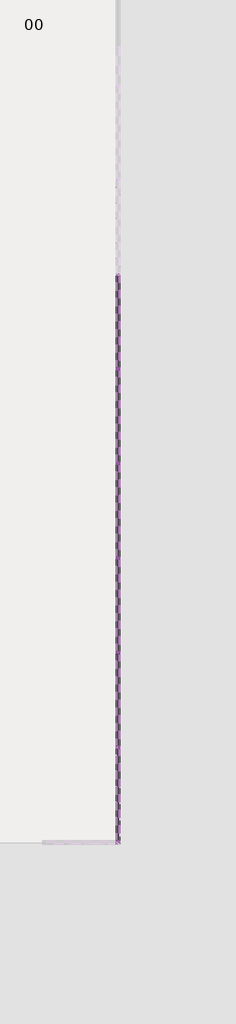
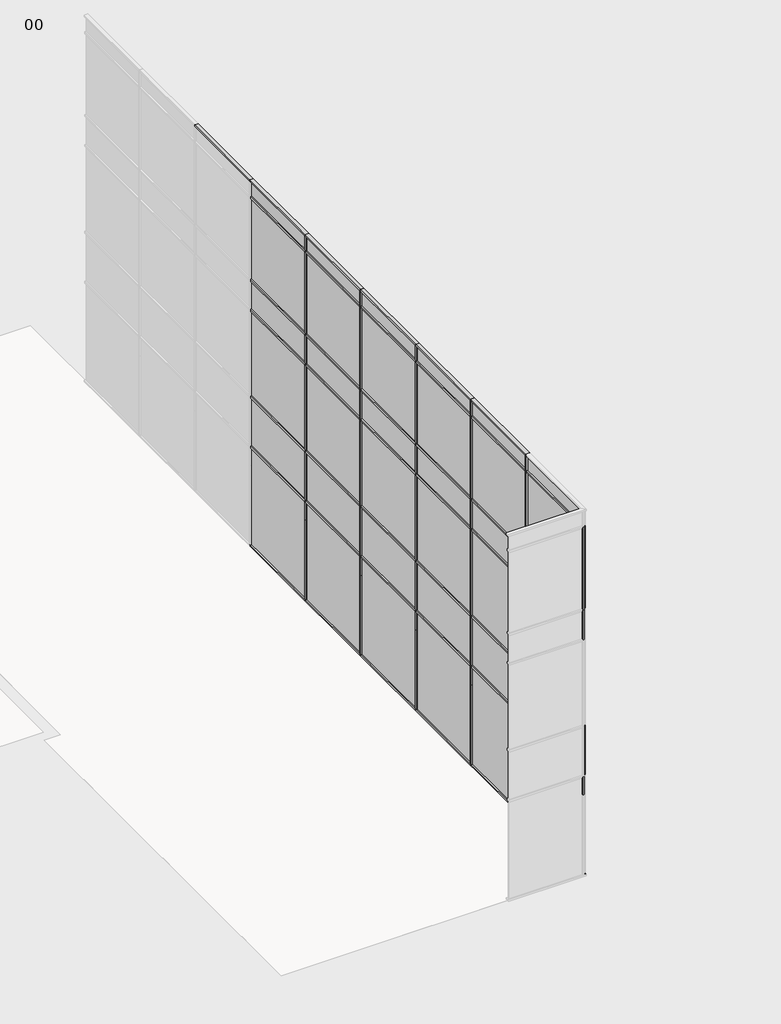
# One storey, part 5 of 11: 82 members, 36 plates.
"""IFC4 building model written with IfcOpenShell, lengths in millimetres."""

from ifc_helpers import new_model, si_unit, origin, place, context, project, spatial, transform, mapped, element, save
from components import rectangular_mullion_curtainwallmullion_rectangular_generic_8ae0e668, rectangular_mullion_curtainwallmullion_rectangular_generic_08fbcc14, rectangular_mullion_curtainwallmullion_rectangular_generic_83e55909, rectangular_mullion_curtainwallmullion_rectangular_generic_5675a122, rectangular_mullion_curtainwallmullion_rectangular_generic_12ad56c0, rectangular_mullion_curtainwallmullion_rectangular_generic_bd817207, rectangular_mullion_curtainwallmullion_rectangular_generic_55e77994, rectangular_mullion_curtainwallmullion_rectangular_generic_654ac675, rectangular_mullion_curtainwallmullion_rectangular_generic_c0600e94, rectangular_mullion_curtainwallmullion_rectangular_generic_3bdb59d8, rectangular_mullion_curtainwallmullion_rectangular_generic_a50df724, rectangular_mullion_curtainwallmullion_rectangular_generic_c640f651, rectangular_mullion_curtainwallmullion_rectangular_generic_afb0b622, rectangular_mullion_curtainwallmullion_rectangular_generic_b2d53351, system_panel_curtainpanel_glazed_34fb785a, system_panel_curtainpanel_glazed_62d472f1, system_panel_curtainpanel_glazed_9c2ad216, system_panel_curtainpanel_solid_fc584997, system_panel_curtainpanel_solid_60141125, system_panel_curtainpanel_solid_5de49f81

model = new_model("IFC4")

# Units and contexts
model_context = context("Model", 3, world=origin())
ifc_project = project(units=[si_unit("LENGTHUNIT", "METRE", prefix="MILLI")], contexts=[model_context])

# Site, building, storey
site = spatial("IfcSite", under=ifc_project)
building = spatial("IfcBuilding", under=site)
storey = spatial("IfcBuildingStorey", under=building, Name="00", Elevation=0.0)

# Members
placement = place(None, origin())
rectangular_mullion_curtainwallmullion_rectangular_generic_shape = rectangular_mullion_curtainwallmullion_rectangular_generic_8ae0e668(model_context)
element("IfcMember", 1, ObjectType="Rectangular Mullion : CurtainWallMullion_Rectangular_Generic", at=placement, inside=storey, context=model_context, shape_type="MappedRepresentation", body=[
    mapped(rectangular_mullion_curtainwallmullion_rectangular_generic_shape, transform((454246.3206883, -394768.0026386, 10486.7), x_axis=(0.0, -1.0, 0.0), y_axis=(-1.0, 0.0, 0.0), z_axis=(0.0, 0.0, -1.0))),
])
element("IfcMember", 2, ObjectType="Rectangular Mullion : CurtainWallMullion_Rectangular_Generic", at=placement, inside=storey, context=model_context, shape_type="MappedRepresentation", body=[
    mapped(rectangular_mullion_curtainwallmullion_rectangular_generic_shape, transform((454246.3206883, -397482.6026385, 10486.7), x_axis=(0.0, -1.0, 0.0), y_axis=(-1.0, 0.0, 0.0), z_axis=(0.0, 0.0, -1.0))),
])
element("IfcMember", 3, ObjectType="Rectangular Mullion : CurtainWallMullion_Rectangular_Generic", at=placement, inside=storey, context=model_context, shape_type="MappedRepresentation", body=[
    mapped(rectangular_mullion_curtainwallmullion_rectangular_generic_shape, transform((454246.3206883, -400197.2026385, 10486.7), x_axis=(0.0, -1.0, 0.0), y_axis=(-1.0, 0.0, 0.0), z_axis=(0.0, 0.0, -1.0))),
])
element("IfcMember", 4, ObjectType="Rectangular Mullion : CurtainWallMullion_Rectangular_Generic", at=placement, inside=storey, context=model_context, shape_type="MappedRepresentation", body=[
    mapped(rectangular_mullion_curtainwallmullion_rectangular_generic_shape, transform((454246.3206883, -402911.8026384, 10486.7), x_axis=(0.0, -1.0, 0.0), y_axis=(-1.0, 0.0, 0.0), z_axis=(0.0, 0.0, -1.0))),
])
element("IfcMember", 5, ObjectType="Rectangular Mullion : CurtainWallMullion_Rectangular_Generic", at=placement, inside=storey, context=model_context, shape_type="MappedRepresentation", body=[
    mapped(rectangular_mullion_curtainwallmullion_rectangular_generic_shape, transform((454246.3206883, -405626.4026384, 10486.7), x_axis=(0.0, -1.0, 0.0), y_axis=(-1.0, 0.0, 0.0), z_axis=(0.0, 0.0, -1.0))),
])
rectangular_mullion_curtainwallmullion_rectangular_generic_2_shape = rectangular_mullion_curtainwallmullion_rectangular_generic_08fbcc14(model_context)
element("IfcMember", 6, ObjectType="Rectangular Mullion : CurtainWallMullion_Rectangular_Generic", at=placement, inside=storey, context=model_context, shape_type="MappedRepresentation", body=[
    mapped(rectangular_mullion_curtainwallmullion_rectangular_generic_2_shape, transform((454246.3206883, -394768.0026386, 8000.0), x_axis=(0.0, -1.0, 0.0), y_axis=(-1.0, 0.0, 0.0), z_axis=(0.0, 0.0, -1.0))),
])
element("IfcMember", 7, ObjectType="Rectangular Mullion : CurtainWallMullion_Rectangular_Generic", at=placement, inside=storey, context=model_context, shape_type="MappedRepresentation", body=[
    mapped(rectangular_mullion_curtainwallmullion_rectangular_generic_2_shape, transform((454246.3206883, -397482.6026385, 8000.0), x_axis=(0.0, -1.0, 0.0), y_axis=(-1.0, 0.0, 0.0), z_axis=(0.0, 0.0, -1.0))),
])
element("IfcMember", 8, ObjectType="Rectangular Mullion : CurtainWallMullion_Rectangular_Generic", at=placement, inside=storey, context=model_context, shape_type="MappedRepresentation", body=[
    mapped(rectangular_mullion_curtainwallmullion_rectangular_generic_2_shape, transform((454246.3206883, -400197.2026385, 8000.0), x_axis=(0.0, -1.0, 0.0), y_axis=(-1.0, 0.0, 0.0), z_axis=(0.0, 0.0, -1.0))),
])
element("IfcMember", 9, ObjectType="Rectangular Mullion : CurtainWallMullion_Rectangular_Generic", at=placement, inside=storey, context=model_context, shape_type="MappedRepresentation", body=[
    mapped(rectangular_mullion_curtainwallmullion_rectangular_generic_2_shape, transform((454246.3206883, -402911.8026384, 8000.0), x_axis=(0.0, -1.0, 0.0), y_axis=(-1.0, 0.0, 0.0), z_axis=(0.0, 0.0, -1.0))),
])
element("IfcMember", 10, ObjectType="Rectangular Mullion : CurtainWallMullion_Rectangular_Generic", at=placement, inside=storey, context=model_context, shape_type="MappedRepresentation", body=[
    mapped(rectangular_mullion_curtainwallmullion_rectangular_generic_2_shape, transform((454246.3206883, -405626.4026384, 8000.0), x_axis=(0.0, -1.0, 0.0), y_axis=(-1.0, 0.0, 0.0), z_axis=(0.0, 0.0, -1.0))),
])
rectangular_mullion_curtainwallmullion_rectangular_generic_3_shape = rectangular_mullion_curtainwallmullion_rectangular_generic_83e55909(model_context)
element("IfcMember", 11, ObjectType="Rectangular Mullion : CurtainWallMullion_Rectangular_Generic", at=placement, inside=storey, context=model_context, shape_type="MappedRepresentation", body=[
    mapped(rectangular_mullion_curtainwallmullion_rectangular_generic_3_shape, transform((454246.3206883, -408366.0026386, 10486.7), x_axis=(1.0, 0.0, 0.0), y_axis=(0.0, 1.0, 0.0), z_axis=(0.0, 0.0, 1.0))),
])
element("IfcMember", 12, ObjectType="Rectangular Mullion : CurtainWallMullion_Rectangular_Generic", at=placement, inside=storey, context=model_context, shape_type="MappedRepresentation", body=[
    mapped(rectangular_mullion_curtainwallmullion_rectangular_generic_3_shape, transform((454246.3206883, -408366.0026386, 8000.0), x_axis=(0.0, -1.0, 0.0), y_axis=(-1.0, 0.0, 0.0), z_axis=(0.0, 0.0, -1.0))),
])
rectangular_mullion_curtainwallmullion_rectangular_generic_4_shape = rectangular_mullion_curtainwallmullion_rectangular_generic_5675a122(model_context)
element("IfcMember", 13, ObjectType="Rectangular Mullion : CurtainWallMullion_Rectangular_Generic", at=placement, inside=storey, context=model_context, shape_type="MappedRepresentation", body=[
    mapped(rectangular_mullion_curtainwallmullion_rectangular_generic_4_shape, transform((454246.3206883, -394768.0026386, 50.0), x_axis=(0.0, -1.0, 0.0), y_axis=(-1.0, 0.0, 0.0), z_axis=(0.0, 0.0, -1.0))),
])
element("IfcMember", 14, ObjectType="Rectangular Mullion : CurtainWallMullion_Rectangular_Generic", at=placement, inside=storey, context=model_context, shape_type="MappedRepresentation", body=[
    mapped(rectangular_mullion_curtainwallmullion_rectangular_generic_4_shape, transform((454246.3206883, -397482.6026385, 50.0), x_axis=(0.0, -1.0, 0.0), y_axis=(-1.0, 0.0, 0.0), z_axis=(0.0, 0.0, -1.0))),
])
element("IfcMember", 15, ObjectType="Rectangular Mullion : CurtainWallMullion_Rectangular_Generic", at=placement, inside=storey, context=model_context, shape_type="MappedRepresentation", body=[
    mapped(rectangular_mullion_curtainwallmullion_rectangular_generic_4_shape, transform((454246.3206883, -400197.2026385, 50.0), x_axis=(0.0, -1.0, 0.0), y_axis=(-1.0, 0.0, 0.0), z_axis=(0.0, 0.0, -1.0))),
])
element("IfcMember", 16, ObjectType="Rectangular Mullion : CurtainWallMullion_Rectangular_Generic", at=placement, inside=storey, context=model_context, shape_type="MappedRepresentation", body=[
    mapped(rectangular_mullion_curtainwallmullion_rectangular_generic_4_shape, transform((454246.3206883, -402911.8026384, 50.0), x_axis=(0.0, -1.0, 0.0), y_axis=(-1.0, 0.0, 0.0), z_axis=(0.0, 0.0, -1.0))),
])
element("IfcMember", 17, ObjectType="Rectangular Mullion : CurtainWallMullion_Rectangular_Generic", at=placement, inside=storey, context=model_context, shape_type="MappedRepresentation", body=[
    mapped(rectangular_mullion_curtainwallmullion_rectangular_generic_4_shape, transform((454246.3206883, -405626.4026384, 50.0), x_axis=(0.0, -1.0, 0.0), y_axis=(-1.0, 0.0, 0.0), z_axis=(0.0, 0.0, -1.0))),
])
rectangular_mullion_curtainwallmullion_rectangular_generic_5_shape = rectangular_mullion_curtainwallmullion_rectangular_generic_12ad56c0(model_context)
element("IfcMember", 18, ObjectType="Rectangular Mullion : CurtainWallMullion_Rectangular_Generic", at=placement, inside=storey, context=model_context, shape_type="MappedRepresentation", body=[
    mapped(rectangular_mullion_curtainwallmullion_rectangular_generic_5_shape, transform((454246.3206883, -392053.4026387, 11000.0), x_axis=(0.0, 0.0, 1.0), y_axis=(-1.0, 0.0, 0.0), z_axis=(0.0, -1.0, 0.0))),
])
element("IfcMember", 19, ObjectType="Rectangular Mullion : CurtainWallMullion_Rectangular_Generic", at=placement, inside=storey, context=model_context, shape_type="MappedRepresentation", body=[
    mapped(rectangular_mullion_curtainwallmullion_rectangular_generic_5_shape, transform((454246.3206883, -394768.0026386, 11000.0), x_axis=(0.0, 0.0, 1.0), y_axis=(-1.0, 0.0, 0.0), z_axis=(0.0, -1.0, 0.0))),
])
element("IfcMember", 20, ObjectType="Rectangular Mullion : CurtainWallMullion_Rectangular_Generic", at=placement, inside=storey, context=model_context, shape_type="MappedRepresentation", body=[
    mapped(rectangular_mullion_curtainwallmullion_rectangular_generic_5_shape, transform((454246.3206883, -397482.6026385, 11000.0), x_axis=(0.0, 0.0, 1.0), y_axis=(-1.0, 0.0, 0.0), z_axis=(0.0, -1.0, 0.0))),
])
element("IfcMember", 21, ObjectType="Rectangular Mullion : CurtainWallMullion_Rectangular_Generic", at=placement, inside=storey, context=model_context, shape_type="MappedRepresentation", body=[
    mapped(rectangular_mullion_curtainwallmullion_rectangular_generic_5_shape, transform((454246.3206883, -400197.2026385, 11000.0), x_axis=(0.0, 0.0, 1.0), y_axis=(-1.0, 0.0, 0.0), z_axis=(0.0, -1.0, 0.0))),
])
element("IfcMember", 22, ObjectType="Rectangular Mullion : CurtainWallMullion_Rectangular_Generic", at=placement, inside=storey, context=model_context, shape_type="MappedRepresentation", body=[
    mapped(rectangular_mullion_curtainwallmullion_rectangular_generic_5_shape, transform((454246.3206883, -402911.8026384, 11000.0), x_axis=(0.0, 0.0, 1.0), y_axis=(-1.0, 0.0, 0.0), z_axis=(0.0, -1.0, 0.0))),
])
element("IfcMember", 23, ObjectType="Rectangular Mullion : CurtainWallMullion_Rectangular_Generic", at=placement, inside=storey, context=model_context, shape_type="MappedRepresentation", body=[
    mapped(rectangular_mullion_curtainwallmullion_rectangular_generic_5_shape, transform((454246.3206883, -405626.4026384, 11000.0), x_axis=(0.0, 0.0, 1.0), y_axis=(-1.0, 0.0, 0.0), z_axis=(0.0, -1.0, 0.0))),
])
element("IfcMember", 24, ObjectType="Rectangular Mullion : CurtainWallMullion_Rectangular_Generic", at=placement, inside=storey, context=model_context, shape_type="MappedRepresentation", body=[
    mapped(rectangular_mullion_curtainwallmullion_rectangular_generic_5_shape, transform((454246.3206883, -392053.4026387, 0.0), x_axis=(0.0, 0.0, -1.0), y_axis=(-1.0, 0.0, 0.0), z_axis=(0.0, 1.0, 0.0))),
])
element("IfcMember", 25, ObjectType="Rectangular Mullion : CurtainWallMullion_Rectangular_Generic", at=placement, inside=storey, context=model_context, shape_type="MappedRepresentation", body=[
    mapped(rectangular_mullion_curtainwallmullion_rectangular_generic_5_shape, transform((454246.3206883, -394768.0026386, 0.0), x_axis=(0.0, 0.0, -1.0), y_axis=(-1.0, 0.0, 0.0), z_axis=(0.0, 1.0, 0.0))),
])
element("IfcMember", 26, ObjectType="Rectangular Mullion : CurtainWallMullion_Rectangular_Generic", at=placement, inside=storey, context=model_context, shape_type="MappedRepresentation", body=[
    mapped(rectangular_mullion_curtainwallmullion_rectangular_generic_5_shape, transform((454246.3206883, -397482.6026385, 0.0), x_axis=(0.0, 0.0, -1.0), y_axis=(-1.0, 0.0, 0.0), z_axis=(0.0, 1.0, 0.0))),
])
element("IfcMember", 27, ObjectType="Rectangular Mullion : CurtainWallMullion_Rectangular_Generic", at=placement, inside=storey, context=model_context, shape_type="MappedRepresentation", body=[
    mapped(rectangular_mullion_curtainwallmullion_rectangular_generic_5_shape, transform((454246.3206883, -400197.2026385, 0.0), x_axis=(0.0, 0.0, -1.0), y_axis=(-1.0, 0.0, 0.0), z_axis=(0.0, 1.0, 0.0))),
])
element("IfcMember", 28, ObjectType="Rectangular Mullion : CurtainWallMullion_Rectangular_Generic", at=placement, inside=storey, context=model_context, shape_type="MappedRepresentation", body=[
    mapped(rectangular_mullion_curtainwallmullion_rectangular_generic_5_shape, transform((454246.3206883, -402911.8026384, 0.0), x_axis=(0.0, 0.0, -1.0), y_axis=(-1.0, 0.0, 0.0), z_axis=(0.0, 1.0, 0.0))),
])
rectangular_mullion_curtainwallmullion_rectangular_generic_6_shape = rectangular_mullion_curtainwallmullion_rectangular_generic_bd817207(model_context)
element("IfcMember", 29, ObjectType="Rectangular Mullion : CurtainWallMullion_Rectangular_Generic", at=placement, inside=storey, context=model_context, shape_type="MappedRepresentation", body=[
    mapped(rectangular_mullion_curtainwallmullion_rectangular_generic_6_shape, transform((454246.3206883, -394743.0026386, 4500.0), x_axis=(0.0, 0.0, 1.0), y_axis=(-1.0, 0.0, 0.0), z_axis=(0.0, -1.0, 0.0))),
])
element("IfcMember", 30, ObjectType="Rectangular Mullion : CurtainWallMullion_Rectangular_Generic", at=placement, inside=storey, context=model_context, shape_type="MappedRepresentation", body=[
    mapped(rectangular_mullion_curtainwallmullion_rectangular_generic_6_shape, transform((454246.3206883, -394743.0026386, 7100.0), x_axis=(0.0, 0.0, 1.0), y_axis=(-1.0, 0.0, 0.0), z_axis=(0.0, -1.0, 0.0))),
])
element("IfcMember", 31, ObjectType="Rectangular Mullion : CurtainWallMullion_Rectangular_Generic", at=placement, inside=storey, context=model_context, shape_type="MappedRepresentation", body=[
    mapped(rectangular_mullion_curtainwallmullion_rectangular_generic_6_shape, transform((454246.3206883, -394743.0026386, 10486.7), x_axis=(0.0, 0.0, 1.0), y_axis=(-1.0, 0.0, 0.0), z_axis=(0.0, -1.0, 0.0))),
])
element("IfcMember", 32, ObjectType="Rectangular Mullion : CurtainWallMullion_Rectangular_Generic", at=placement, inside=storey, context=model_context, shape_type="MappedRepresentation", body=[
    mapped(rectangular_mullion_curtainwallmullion_rectangular_generic_6_shape, transform((454246.3206883, -397457.6026385, 4500.0), x_axis=(0.0, 0.0, 1.0), y_axis=(-1.0, 0.0, 0.0), z_axis=(0.0, -1.0, 0.0))),
])
element("IfcMember", 33, ObjectType="Rectangular Mullion : CurtainWallMullion_Rectangular_Generic", at=placement, inside=storey, context=model_context, shape_type="MappedRepresentation", body=[
    mapped(rectangular_mullion_curtainwallmullion_rectangular_generic_6_shape, transform((454246.3206883, -400172.2026385, 4500.0), x_axis=(0.0, 0.0, 1.0), y_axis=(-1.0, 0.0, 0.0), z_axis=(0.0, -1.0, 0.0))),
])
element("IfcMember", 34, ObjectType="Rectangular Mullion : CurtainWallMullion_Rectangular_Generic", at=placement, inside=storey, context=model_context, shape_type="MappedRepresentation", body=[
    mapped(rectangular_mullion_curtainwallmullion_rectangular_generic_6_shape, transform((454246.3206883, -402886.8026384, 4500.0), x_axis=(0.0, 0.0, 1.0), y_axis=(-1.0, 0.0, 0.0), z_axis=(0.0, -1.0, 0.0))),
])
element("IfcMember", 35, ObjectType="Rectangular Mullion : CurtainWallMullion_Rectangular_Generic", at=placement, inside=storey, context=model_context, shape_type="MappedRepresentation", body=[
    mapped(rectangular_mullion_curtainwallmullion_rectangular_generic_6_shape, transform((454246.3206883, -405601.4026384, 4500.0), x_axis=(0.0, 0.0, 1.0), y_axis=(-1.0, 0.0, 0.0), z_axis=(0.0, -1.0, 0.0))),
])
element("IfcMember", 36, ObjectType="Rectangular Mullion : CurtainWallMullion_Rectangular_Generic", at=placement, inside=storey, context=model_context, shape_type="MappedRepresentation", body=[
    mapped(rectangular_mullion_curtainwallmullion_rectangular_generic_6_shape, transform((454246.3206883, -408316.0026386, 4500.0), x_axis=(0.0, 0.0, 1.0), y_axis=(-1.0, 0.0, 0.0), z_axis=(0.0, -1.0, 0.0))),
])
element("IfcMember", 37, ObjectType="Rectangular Mullion : CurtainWallMullion_Rectangular_Generic", at=placement, inside=storey, context=model_context, shape_type="MappedRepresentation", body=[
    mapped(rectangular_mullion_curtainwallmullion_rectangular_generic_6_shape, transform((454246.3206883, -397457.6026385, 7100.0), x_axis=(0.0, 0.0, 1.0), y_axis=(-1.0, 0.0, 0.0), z_axis=(0.0, -1.0, 0.0))),
])
element("IfcMember", 38, ObjectType="Rectangular Mullion : CurtainWallMullion_Rectangular_Generic", at=placement, inside=storey, context=model_context, shape_type="MappedRepresentation", body=[
    mapped(rectangular_mullion_curtainwallmullion_rectangular_generic_6_shape, transform((454246.3206883, -400172.2026385, 7100.0), x_axis=(0.0, 0.0, 1.0), y_axis=(-1.0, 0.0, 0.0), z_axis=(0.0, -1.0, 0.0))),
])
element("IfcMember", 39, ObjectType="Rectangular Mullion : CurtainWallMullion_Rectangular_Generic", at=placement, inside=storey, context=model_context, shape_type="MappedRepresentation", body=[
    mapped(rectangular_mullion_curtainwallmullion_rectangular_generic_6_shape, transform((454246.3206883, -402886.8026384, 7100.0), x_axis=(0.0, 0.0, 1.0), y_axis=(-1.0, 0.0, 0.0), z_axis=(0.0, -1.0, 0.0))),
])
element("IfcMember", 40, ObjectType="Rectangular Mullion : CurtainWallMullion_Rectangular_Generic", at=placement, inside=storey, context=model_context, shape_type="MappedRepresentation", body=[
    mapped(rectangular_mullion_curtainwallmullion_rectangular_generic_6_shape, transform((454246.3206883, -405601.4026384, 7100.0), x_axis=(0.0, 0.0, 1.0), y_axis=(-1.0, 0.0, 0.0), z_axis=(0.0, -1.0, 0.0))),
])
element("IfcMember", 41, ObjectType="Rectangular Mullion : CurtainWallMullion_Rectangular_Generic", at=placement, inside=storey, context=model_context, shape_type="MappedRepresentation", body=[
    mapped(rectangular_mullion_curtainwallmullion_rectangular_generic_6_shape, transform((454246.3206883, -408316.0026386, 7100.0), x_axis=(0.0, 0.0, 1.0), y_axis=(-1.0, 0.0, 0.0), z_axis=(0.0, -1.0, 0.0))),
])
element("IfcMember", 42, ObjectType="Rectangular Mullion : CurtainWallMullion_Rectangular_Generic", at=placement, inside=storey, context=model_context, shape_type="MappedRepresentation", body=[
    mapped(rectangular_mullion_curtainwallmullion_rectangular_generic_6_shape, transform((454246.3206883, -397457.6026385, 10486.7), x_axis=(0.0, 0.0, 1.0), y_axis=(-1.0, 0.0, 0.0), z_axis=(0.0, -1.0, 0.0))),
])
element("IfcMember", 43, ObjectType="Rectangular Mullion : CurtainWallMullion_Rectangular_Generic", at=placement, inside=storey, context=model_context, shape_type="MappedRepresentation", body=[
    mapped(rectangular_mullion_curtainwallmullion_rectangular_generic_6_shape, transform((454246.3206883, -400172.2026385, 10486.7), x_axis=(0.0, 0.0, 1.0), y_axis=(-1.0, 0.0, 0.0), z_axis=(0.0, -1.0, 0.0))),
])
element("IfcMember", 44, ObjectType="Rectangular Mullion : CurtainWallMullion_Rectangular_Generic", at=placement, inside=storey, context=model_context, shape_type="MappedRepresentation", body=[
    mapped(rectangular_mullion_curtainwallmullion_rectangular_generic_6_shape, transform((454246.3206883, -402886.8026384, 10486.7), x_axis=(0.0, 0.0, 1.0), y_axis=(-1.0, 0.0, 0.0), z_axis=(0.0, -1.0, 0.0))),
])
element("IfcMember", 45, ObjectType="Rectangular Mullion : CurtainWallMullion_Rectangular_Generic", at=placement, inside=storey, context=model_context, shape_type="MappedRepresentation", body=[
    mapped(rectangular_mullion_curtainwallmullion_rectangular_generic_6_shape, transform((454246.3206883, -405601.4026384, 10486.7), x_axis=(0.0, 0.0, 1.0), y_axis=(-1.0, 0.0, 0.0), z_axis=(0.0, -1.0, 0.0))),
])
element("IfcMember", 46, ObjectType="Rectangular Mullion : CurtainWallMullion_Rectangular_Generic", at=placement, inside=storey, context=model_context, shape_type="MappedRepresentation", body=[
    mapped(rectangular_mullion_curtainwallmullion_rectangular_generic_6_shape, transform((454246.3206883, -408316.0026386, 10486.7), x_axis=(0.0, 0.0, 1.0), y_axis=(-1.0, 0.0, 0.0), z_axis=(0.0, -1.0, 0.0))),
])
element("IfcMember", 47, ObjectType="Rectangular Mullion : CurtainWallMullion_Rectangular_Generic", at=placement, inside=storey, context=model_context, shape_type="MappedRepresentation", body=[
    mapped(rectangular_mullion_curtainwallmullion_rectangular_generic_6_shape, transform((454246.3206883, -394743.0026386, 8000.0), x_axis=(0.0, 0.0, 1.0), y_axis=(-1.0, 0.0, 0.0), z_axis=(0.0, -1.0, 0.0))),
])
element("IfcMember", 48, ObjectType="Rectangular Mullion : CurtainWallMullion_Rectangular_Generic", at=placement, inside=storey, context=model_context, shape_type="MappedRepresentation", body=[
    mapped(rectangular_mullion_curtainwallmullion_rectangular_generic_6_shape, transform((454246.3206883, -397457.6026385, 8000.0), x_axis=(0.0, 0.0, 1.0), y_axis=(-1.0, 0.0, 0.0), z_axis=(0.0, -1.0, 0.0))),
])
element("IfcMember", 49, ObjectType="Rectangular Mullion : CurtainWallMullion_Rectangular_Generic", at=placement, inside=storey, context=model_context, shape_type="MappedRepresentation", body=[
    mapped(rectangular_mullion_curtainwallmullion_rectangular_generic_6_shape, transform((454246.3206883, -400172.2026385, 8000.0), x_axis=(0.0, 0.0, 1.0), y_axis=(-1.0, 0.0, 0.0), z_axis=(0.0, -1.0, 0.0))),
])
element("IfcMember", 50, ObjectType="Rectangular Mullion : CurtainWallMullion_Rectangular_Generic", at=placement, inside=storey, context=model_context, shape_type="MappedRepresentation", body=[
    mapped(rectangular_mullion_curtainwallmullion_rectangular_generic_6_shape, transform((454246.3206883, -402886.8026384, 8000.0), x_axis=(0.0, 0.0, 1.0), y_axis=(-1.0, 0.0, 0.0), z_axis=(0.0, -1.0, 0.0))),
])
element("IfcMember", 51, ObjectType="Rectangular Mullion : CurtainWallMullion_Rectangular_Generic", at=placement, inside=storey, context=model_context, shape_type="MappedRepresentation", body=[
    mapped(rectangular_mullion_curtainwallmullion_rectangular_generic_6_shape, transform((454246.3206883, -405601.4026384, 8000.0), x_axis=(0.0, 0.0, 1.0), y_axis=(-1.0, 0.0, 0.0), z_axis=(0.0, -1.0, 0.0))),
])
element("IfcMember", 52, ObjectType="Rectangular Mullion : CurtainWallMullion_Rectangular_Generic", at=placement, inside=storey, context=model_context, shape_type="MappedRepresentation", body=[
    mapped(rectangular_mullion_curtainwallmullion_rectangular_generic_6_shape, transform((454246.3206883, -408316.0026386, 8000.0), x_axis=(0.0, 0.0, 1.0), y_axis=(-1.0, 0.0, 0.0), z_axis=(0.0, -1.0, 0.0))),
])
element("IfcMember", 53, ObjectType="Rectangular Mullion : CurtainWallMullion_Rectangular_Generic", at=placement, inside=storey, context=model_context, shape_type="MappedRepresentation", body=[
    mapped(rectangular_mullion_curtainwallmullion_rectangular_generic_6_shape, transform((454246.3206883, -394743.0026386, 3000.0), x_axis=(0.0, 0.0, 1.0), y_axis=(-1.0, 0.0, 0.0), z_axis=(0.0, -1.0, 0.0))),
])
element("IfcMember", 54, ObjectType="Rectangular Mullion : CurtainWallMullion_Rectangular_Generic", at=placement, inside=storey, context=model_context, shape_type="MappedRepresentation", body=[
    mapped(rectangular_mullion_curtainwallmullion_rectangular_generic_6_shape, transform((454246.3206883, -397457.6026385, 3000.0), x_axis=(0.0, 0.0, 1.0), y_axis=(-1.0, 0.0, 0.0), z_axis=(0.0, -1.0, 0.0))),
])
element("IfcMember", 55, ObjectType="Rectangular Mullion : CurtainWallMullion_Rectangular_Generic", at=placement, inside=storey, context=model_context, shape_type="MappedRepresentation", body=[
    mapped(rectangular_mullion_curtainwallmullion_rectangular_generic_6_shape, transform((454246.3206883, -400172.2026385, 3000.0), x_axis=(0.0, 0.0, 1.0), y_axis=(-1.0, 0.0, 0.0), z_axis=(0.0, -1.0, 0.0))),
])
element("IfcMember", 56, ObjectType="Rectangular Mullion : CurtainWallMullion_Rectangular_Generic", at=placement, inside=storey, context=model_context, shape_type="MappedRepresentation", body=[
    mapped(rectangular_mullion_curtainwallmullion_rectangular_generic_6_shape, transform((454246.3206883, -402886.8026384, 3000.0), x_axis=(0.0, 0.0, 1.0), y_axis=(-1.0, 0.0, 0.0), z_axis=(0.0, -1.0, 0.0))),
])
element("IfcMember", 57, ObjectType="Rectangular Mullion : CurtainWallMullion_Rectangular_Generic", at=placement, inside=storey, context=model_context, shape_type="MappedRepresentation", body=[
    mapped(rectangular_mullion_curtainwallmullion_rectangular_generic_6_shape, transform((454246.3206883, -405601.4026384, 3000.0), x_axis=(0.0, 0.0, 1.0), y_axis=(-1.0, 0.0, 0.0), z_axis=(0.0, -1.0, 0.0))),
])
element("IfcMember", 58, ObjectType="Rectangular Mullion : CurtainWallMullion_Rectangular_Generic", at=placement, inside=storey, context=model_context, shape_type="MappedRepresentation", body=[
    mapped(rectangular_mullion_curtainwallmullion_rectangular_generic_6_shape, transform((454246.3206883, -408316.0026386, 3000.0), x_axis=(0.0, 0.0, 1.0), y_axis=(-1.0, 0.0, 0.0), z_axis=(0.0, -1.0, 0.0))),
])
rectangular_mullion_curtainwallmullion_rectangular_generic_7_shape = rectangular_mullion_curtainwallmullion_rectangular_generic_55e77994(model_context)
element("IfcMember", 59, ObjectType="Rectangular Mullion : CurtainWallMullion_Rectangular_Generic", at=placement, inside=storey, context=model_context, shape_type="MappedRepresentation", body=[
    mapped(rectangular_mullion_curtainwallmullion_rectangular_generic_7_shape, transform((454246.3206883, -405626.4026384, 0.0), x_axis=(0.0, 0.0, -1.0), y_axis=(-1.0, 0.0, 0.0), z_axis=(0.0, 1.0, 0.0))),
])
rectangular_mullion_curtainwallmullion_rectangular_generic_8_shape = rectangular_mullion_curtainwallmullion_rectangular_generic_654ac675(model_context)
element("IfcMember", 60, ObjectType="Rectangular Mullion : CurtainWallMullion_Rectangular_Generic", at=placement, inside=storey, context=model_context, shape_type="MappedRepresentation", body=[
    mapped(rectangular_mullion_curtainwallmullion_rectangular_generic_8_shape, transform((454246.3206883, -394768.0026386, 4500.0), x_axis=(0.0, -1.0, 0.0), y_axis=(-1.0, 0.0, 0.0), z_axis=(0.0, 0.0, -1.0))),
])
element("IfcMember", 61, ObjectType="Rectangular Mullion : CurtainWallMullion_Rectangular_Generic", at=placement, inside=storey, context=model_context, shape_type="MappedRepresentation", body=[
    mapped(rectangular_mullion_curtainwallmullion_rectangular_generic_8_shape, transform((454246.3206883, -397482.6026385, 4500.0), x_axis=(0.0, -1.0, 0.0), y_axis=(-1.0, 0.0, 0.0), z_axis=(0.0, 0.0, -1.0))),
])
element("IfcMember", 62, ObjectType="Rectangular Mullion : CurtainWallMullion_Rectangular_Generic", at=placement, inside=storey, context=model_context, shape_type="MappedRepresentation", body=[
    mapped(rectangular_mullion_curtainwallmullion_rectangular_generic_8_shape, transform((454246.3206883, -400197.2026385, 4500.0), x_axis=(0.0, -1.0, 0.0), y_axis=(-1.0, 0.0, 0.0), z_axis=(0.0, 0.0, -1.0))),
])
element("IfcMember", 63, ObjectType="Rectangular Mullion : CurtainWallMullion_Rectangular_Generic", at=placement, inside=storey, context=model_context, shape_type="MappedRepresentation", body=[
    mapped(rectangular_mullion_curtainwallmullion_rectangular_generic_8_shape, transform((454246.3206883, -402911.8026384, 4500.0), x_axis=(0.0, -1.0, 0.0), y_axis=(-1.0, 0.0, 0.0), z_axis=(0.0, 0.0, -1.0))),
])
element("IfcMember", 64, ObjectType="Rectangular Mullion : CurtainWallMullion_Rectangular_Generic", at=placement, inside=storey, context=model_context, shape_type="MappedRepresentation", body=[
    mapped(rectangular_mullion_curtainwallmullion_rectangular_generic_8_shape, transform((454246.3206883, -405626.4026384, 4500.0), x_axis=(0.0, -1.0, 0.0), y_axis=(-1.0, 0.0, 0.0), z_axis=(0.0, 0.0, -1.0))),
])
rectangular_mullion_curtainwallmullion_rectangular_generic_9_shape = rectangular_mullion_curtainwallmullion_rectangular_generic_c0600e94(model_context)
element("IfcMember", 65, ObjectType="Rectangular Mullion : CurtainWallMullion_Rectangular_Generic", at=placement, inside=storey, context=model_context, shape_type="MappedRepresentation", body=[
    mapped(rectangular_mullion_curtainwallmullion_rectangular_generic_9_shape, transform((454246.3206883, -394768.0026386, 3000.0), x_axis=(0.0, -1.0, 0.0), y_axis=(-1.0, 0.0, 0.0), z_axis=(0.0, 0.0, -1.0))),
])
element("IfcMember", 66, ObjectType="Rectangular Mullion : CurtainWallMullion_Rectangular_Generic", at=placement, inside=storey, context=model_context, shape_type="MappedRepresentation", body=[
    mapped(rectangular_mullion_curtainwallmullion_rectangular_generic_9_shape, transform((454246.3206883, -397482.6026385, 3000.0), x_axis=(0.0, -1.0, 0.0), y_axis=(-1.0, 0.0, 0.0), z_axis=(0.0, 0.0, -1.0))),
])
element("IfcMember", 67, ObjectType="Rectangular Mullion : CurtainWallMullion_Rectangular_Generic", at=placement, inside=storey, context=model_context, shape_type="MappedRepresentation", body=[
    mapped(rectangular_mullion_curtainwallmullion_rectangular_generic_9_shape, transform((454246.3206883, -400197.2026385, 3000.0), x_axis=(0.0, -1.0, 0.0), y_axis=(-1.0, 0.0, 0.0), z_axis=(0.0, 0.0, -1.0))),
])
element("IfcMember", 68, ObjectType="Rectangular Mullion : CurtainWallMullion_Rectangular_Generic", at=placement, inside=storey, context=model_context, shape_type="MappedRepresentation", body=[
    mapped(rectangular_mullion_curtainwallmullion_rectangular_generic_9_shape, transform((454246.3206883, -402911.8026384, 3000.0), x_axis=(0.0, -1.0, 0.0), y_axis=(-1.0, 0.0, 0.0), z_axis=(0.0, 0.0, -1.0))),
])
element("IfcMember", 69, ObjectType="Rectangular Mullion : CurtainWallMullion_Rectangular_Generic", at=placement, inside=storey, context=model_context, shape_type="MappedRepresentation", body=[
    mapped(rectangular_mullion_curtainwallmullion_rectangular_generic_9_shape, transform((454246.3206883, -405626.4026384, 3000.0), x_axis=(0.0, -1.0, 0.0), y_axis=(-1.0, 0.0, 0.0), z_axis=(0.0, 0.0, -1.0))),
])
rectangular_mullion_curtainwallmullion_rectangular_generic_10_shape = rectangular_mullion_curtainwallmullion_rectangular_generic_3bdb59d8(model_context)
element("IfcMember", 70, ObjectType="Rectangular Mullion : CurtainWallMullion_Rectangular_Generic", at=placement, inside=storey, context=model_context, shape_type="MappedRepresentation", body=[
    mapped(rectangular_mullion_curtainwallmullion_rectangular_generic_10_shape, transform((454246.3206883, -408366.0026386, 3000.0), x_axis=(0.0, -1.0, 0.0), y_axis=(-1.0, 0.0, 0.0), z_axis=(0.0, 0.0, -1.0))),
])
rectangular_mullion_curtainwallmullion_rectangular_generic_11_shape = rectangular_mullion_curtainwallmullion_rectangular_generic_a50df724(model_context)
element("IfcMember", 71, ObjectType="Rectangular Mullion : CurtainWallMullion_Rectangular_Generic", at=placement, inside=storey, context=model_context, shape_type="MappedRepresentation", body=[
    mapped(rectangular_mullion_curtainwallmullion_rectangular_generic_11_shape, transform((454246.3206883, -408366.0026386, 3000.0), x_axis=(1.0, 0.0, 0.0), y_axis=(0.0, 1.0, 0.0), z_axis=(0.0, 0.0, 1.0))),
])
rectangular_mullion_curtainwallmullion_rectangular_generic_12_shape = rectangular_mullion_curtainwallmullion_rectangular_generic_c640f651(model_context)
element("IfcMember", 72, ObjectType="Rectangular Mullion : CurtainWallMullion_Rectangular_Generic", at=placement, inside=storey, context=model_context, shape_type="MappedRepresentation", body=[
    mapped(rectangular_mullion_curtainwallmullion_rectangular_generic_12_shape, transform((454246.3206883, -394768.0026386, 7100.0), x_axis=(0.0, -1.0, 0.0), y_axis=(-1.0, 0.0, 0.0), z_axis=(0.0, 0.0, -1.0))),
])
element("IfcMember", 73, ObjectType="Rectangular Mullion : CurtainWallMullion_Rectangular_Generic", at=placement, inside=storey, context=model_context, shape_type="MappedRepresentation", body=[
    mapped(rectangular_mullion_curtainwallmullion_rectangular_generic_12_shape, transform((454246.3206883, -397482.6026385, 7100.0), x_axis=(0.0, -1.0, 0.0), y_axis=(-1.0, 0.0, 0.0), z_axis=(0.0, 0.0, -1.0))),
])
element("IfcMember", 74, ObjectType="Rectangular Mullion : CurtainWallMullion_Rectangular_Generic", at=placement, inside=storey, context=model_context, shape_type="MappedRepresentation", body=[
    mapped(rectangular_mullion_curtainwallmullion_rectangular_generic_12_shape, transform((454246.3206883, -400197.2026385, 7100.0), x_axis=(0.0, -1.0, 0.0), y_axis=(-1.0, 0.0, 0.0), z_axis=(0.0, 0.0, -1.0))),
])
element("IfcMember", 75, ObjectType="Rectangular Mullion : CurtainWallMullion_Rectangular_Generic", at=placement, inside=storey, context=model_context, shape_type="MappedRepresentation", body=[
    mapped(rectangular_mullion_curtainwallmullion_rectangular_generic_12_shape, transform((454246.3206883, -402911.8026384, 7100.0), x_axis=(0.0, -1.0, 0.0), y_axis=(-1.0, 0.0, 0.0), z_axis=(0.0, 0.0, -1.0))),
])
element("IfcMember", 76, ObjectType="Rectangular Mullion : CurtainWallMullion_Rectangular_Generic", at=placement, inside=storey, context=model_context, shape_type="MappedRepresentation", body=[
    mapped(rectangular_mullion_curtainwallmullion_rectangular_generic_12_shape, transform((454246.3206883, -405626.4026384, 7100.0), x_axis=(0.0, -1.0, 0.0), y_axis=(-1.0, 0.0, 0.0), z_axis=(0.0, 0.0, -1.0))),
])
rectangular_mullion_curtainwallmullion_rectangular_generic_13_shape = rectangular_mullion_curtainwallmullion_rectangular_generic_afb0b622(model_context)
element("IfcMember", 77, ObjectType="Rectangular Mullion : CurtainWallMullion_Rectangular_Generic", at=placement, inside=storey, context=model_context, shape_type="MappedRepresentation", body=[
    mapped(rectangular_mullion_curtainwallmullion_rectangular_generic_13_shape, transform((454246.3206883, -408366.0026386, 8000.0), x_axis=(1.0, 0.0, 0.0), y_axis=(0.0, 1.0, 0.0), z_axis=(0.0, 0.0, 1.0))),
])
rectangular_mullion_curtainwallmullion_rectangular_generic_14_shape = rectangular_mullion_curtainwallmullion_rectangular_generic_b2d53351(model_context)
element("IfcMember", 78, ObjectType="Rectangular Mullion : CurtainWallMullion_Rectangular_Generic", at=placement, inside=storey, context=model_context, shape_type="MappedRepresentation", body=[
    mapped(rectangular_mullion_curtainwallmullion_rectangular_generic_14_shape, transform((454246.3206883, -394768.0026386, 2425.0), x_axis=(0.0, -1.0, 0.0), y_axis=(-1.0, 0.0, 0.0), z_axis=(0.0, 0.0, -1.0))),
])
element("IfcMember", 79, ObjectType="Rectangular Mullion : CurtainWallMullion_Rectangular_Generic", at=placement, inside=storey, context=model_context, shape_type="MappedRepresentation", body=[
    mapped(rectangular_mullion_curtainwallmullion_rectangular_generic_14_shape, transform((454246.3206883, -397482.6026385, 2425.0), x_axis=(0.0, -1.0, 0.0), y_axis=(-1.0, 0.0, 0.0), z_axis=(0.0, 0.0, -1.0))),
])
element("IfcMember", 80, ObjectType="Rectangular Mullion : CurtainWallMullion_Rectangular_Generic", at=placement, inside=storey, context=model_context, shape_type="MappedRepresentation", body=[
    mapped(rectangular_mullion_curtainwallmullion_rectangular_generic_14_shape, transform((454246.3206883, -400197.2026385, 2425.0), x_axis=(0.0, -1.0, 0.0), y_axis=(-1.0, 0.0, 0.0), z_axis=(0.0, 0.0, -1.0))),
])
element("IfcMember", 81, ObjectType="Rectangular Mullion : CurtainWallMullion_Rectangular_Generic", at=placement, inside=storey, context=model_context, shape_type="MappedRepresentation", body=[
    mapped(rectangular_mullion_curtainwallmullion_rectangular_generic_14_shape, transform((454246.3206883, -402911.8026384, 2425.0), x_axis=(0.0, -1.0, 0.0), y_axis=(-1.0, 0.0, 0.0), z_axis=(0.0, 0.0, -1.0))),
])
element("IfcMember", 82, ObjectType="Rectangular Mullion : CurtainWallMullion_Rectangular_Generic", at=placement, inside=storey, context=model_context, shape_type="MappedRepresentation", body=[
    mapped(rectangular_mullion_curtainwallmullion_rectangular_generic_14_shape, transform((454246.3206883, -405626.4026384, 2425.0), x_axis=(0.0, -1.0, 0.0), y_axis=(-1.0, 0.0, 0.0), z_axis=(0.0, 0.0, -1.0))),
])

# Plates
system_panel_curtainpanel_glazed_shape = system_panel_curtainpanel_glazed_34fb785a(model_context)
element("IfcPlate", 83, ObjectType="System Panel : CurtainPanel_Glazed", at=placement, inside=storey, context=model_context, shape_type="MappedRepresentation", body=[
    mapped(system_panel_curtainpanel_glazed_shape, transform((454246.3206883, -393410.7026386, 8025.0), x_axis=(0.0, -1.0, 0.0), y_axis=(1.0, 0.0, 0.0), z_axis=(0.0, 0.0, 1.0))),
])
element("IfcPlate", 84, ObjectType="System Panel : CurtainPanel_Glazed", at=placement, inside=storey, context=model_context, shape_type="MappedRepresentation", body=[
    mapped(system_panel_curtainpanel_glazed_shape, transform((454246.3206883, -396125.3026386, 8025.0), x_axis=(0.0, -1.0, 0.0), y_axis=(1.0, 0.0, 0.0), z_axis=(0.0, 0.0, 1.0))),
])
element("IfcPlate", 85, ObjectType="System Panel : CurtainPanel_Glazed", at=placement, inside=storey, context=model_context, shape_type="MappedRepresentation", body=[
    mapped(system_panel_curtainpanel_glazed_shape, transform((454246.3206883, -398839.9026385, 8025.0), x_axis=(0.0, -1.0, 0.0), y_axis=(1.0, 0.0, 0.0), z_axis=(0.0, 0.0, 1.0))),
])
element("IfcPlate", 86, ObjectType="System Panel : CurtainPanel_Glazed", at=placement, inside=storey, context=model_context, shape_type="MappedRepresentation", body=[
    mapped(system_panel_curtainpanel_glazed_shape, transform((454246.3206883, -401554.5026385, 8025.0), x_axis=(0.0, -1.0, 0.0), y_axis=(1.0, 0.0, 0.0), z_axis=(0.0, 0.0, 1.0))),
])
element("IfcPlate", 87, ObjectType="System Panel : CurtainPanel_Glazed", at=placement, inside=storey, context=model_context, shape_type="MappedRepresentation", body=[
    mapped(system_panel_curtainpanel_glazed_shape, transform((454246.3206883, -404269.1026384, 8025.0), x_axis=(0.0, -1.0, 0.0), y_axis=(1.0, 0.0, 0.0), z_axis=(0.0, 0.0, 1.0))),
])
element("IfcPlate", 88, ObjectType="System Panel : CurtainPanel_Glazed", at=placement, inside=storey, context=model_context, shape_type="MappedRepresentation", body=[
    mapped(system_panel_curtainpanel_glazed_shape, transform((454246.3206883, -406983.7026385, 8025.0), x_axis=(0.0, -1.0, 0.0), y_axis=(1.0, 0.0, 0.0), z_axis=(0.0, 0.0, 1.0))),
])
system_panel_curtainpanel_glazed_2_shape = system_panel_curtainpanel_glazed_62d472f1(model_context)
element("IfcPlate", 89, ObjectType="System Panel : CurtainPanel_Glazed", at=placement, inside=storey, context=model_context, shape_type="MappedRepresentation", body=[
    mapped(system_panel_curtainpanel_glazed_2_shape, transform((454246.3206883, -393410.7026386, 50.0), x_axis=(0.0, -1.0, 0.0), y_axis=(1.0, 0.0, 0.0), z_axis=(0.0, 0.0, 1.0))),
])
element("IfcPlate", 90, ObjectType="System Panel : CurtainPanel_Glazed", at=placement, inside=storey, context=model_context, shape_type="MappedRepresentation", body=[
    mapped(system_panel_curtainpanel_glazed_2_shape, transform((454246.3206883, -396125.3026386, 50.0), x_axis=(0.0, -1.0, 0.0), y_axis=(1.0, 0.0, 0.0), z_axis=(0.0, 0.0, 1.0))),
])
element("IfcPlate", 91, ObjectType="System Panel : CurtainPanel_Glazed", at=placement, inside=storey, context=model_context, shape_type="MappedRepresentation", body=[
    mapped(system_panel_curtainpanel_glazed_2_shape, transform((454246.3206883, -398839.9026385, 50.0), x_axis=(0.0, -1.0, 0.0), y_axis=(1.0, 0.0, 0.0), z_axis=(0.0, 0.0, 1.0))),
])
element("IfcPlate", 92, ObjectType="System Panel : CurtainPanel_Glazed", at=placement, inside=storey, context=model_context, shape_type="MappedRepresentation", body=[
    mapped(system_panel_curtainpanel_glazed_2_shape, transform((454246.3206883, -401554.5026385, 50.0), x_axis=(0.0, -1.0, 0.0), y_axis=(1.0, 0.0, 0.0), z_axis=(0.0, 0.0, 1.0))),
])
element("IfcPlate", 93, ObjectType="System Panel : CurtainPanel_Glazed", at=placement, inside=storey, context=model_context, shape_type="MappedRepresentation", body=[
    mapped(system_panel_curtainpanel_glazed_2_shape, transform((454246.3206883, -404269.1026384, 50.0), x_axis=(0.0, -1.0, 0.0), y_axis=(1.0, 0.0, 0.0), z_axis=(0.0, 0.0, 1.0))),
])
element("IfcPlate", 94, ObjectType="System Panel : CurtainPanel_Glazed", at=placement, inside=storey, context=model_context, shape_type="MappedRepresentation", body=[
    mapped(system_panel_curtainpanel_glazed_2_shape, transform((454246.3206883, -406983.7026385, 50.0), x_axis=(0.0, -1.0, 0.0), y_axis=(1.0, 0.0, 0.0), z_axis=(0.0, 0.0, 1.0))),
])
system_panel_curtainpanel_glazed_3_shape = system_panel_curtainpanel_glazed_9c2ad216(model_context)
element("IfcPlate", 95, ObjectType="System Panel : CurtainPanel_Glazed", at=placement, inside=storey, context=model_context, shape_type="MappedRepresentation", body=[
    mapped(system_panel_curtainpanel_glazed_3_shape, transform((454246.3206883, -393410.7026386, 4525.0), x_axis=(0.0, -1.0, 0.0), y_axis=(1.0, 0.0, 0.0), z_axis=(0.0, 0.0, 1.0))),
])
element("IfcPlate", 96, ObjectType="System Panel : CurtainPanel_Glazed", at=placement, inside=storey, context=model_context, shape_type="MappedRepresentation", body=[
    mapped(system_panel_curtainpanel_glazed_3_shape, transform((454246.3206883, -396125.3026386, 4525.0), x_axis=(0.0, -1.0, 0.0), y_axis=(1.0, 0.0, 0.0), z_axis=(0.0, 0.0, 1.0))),
])
element("IfcPlate", 97, ObjectType="System Panel : CurtainPanel_Glazed", at=placement, inside=storey, context=model_context, shape_type="MappedRepresentation", body=[
    mapped(system_panel_curtainpanel_glazed_3_shape, transform((454246.3206883, -398839.9026385, 4525.0), x_axis=(0.0, -1.0, 0.0), y_axis=(1.0, 0.0, 0.0), z_axis=(0.0, 0.0, 1.0))),
])
element("IfcPlate", 98, ObjectType="System Panel : CurtainPanel_Glazed", at=placement, inside=storey, context=model_context, shape_type="MappedRepresentation", body=[
    mapped(system_panel_curtainpanel_glazed_3_shape, transform((454246.3206883, -401554.5026385, 4525.0), x_axis=(0.0, -1.0, 0.0), y_axis=(1.0, 0.0, 0.0), z_axis=(0.0, 0.0, 1.0))),
])
element("IfcPlate", 99, ObjectType="System Panel : CurtainPanel_Glazed", at=placement, inside=storey, context=model_context, shape_type="MappedRepresentation", body=[
    mapped(system_panel_curtainpanel_glazed_3_shape, transform((454246.3206883, -404269.1026384, 4525.0), x_axis=(0.0, -1.0, 0.0), y_axis=(1.0, 0.0, 0.0), z_axis=(0.0, 0.0, 1.0))),
])
element("IfcPlate", 100, ObjectType="System Panel : CurtainPanel_Glazed", at=placement, inside=storey, context=model_context, shape_type="MappedRepresentation", body=[
    mapped(system_panel_curtainpanel_glazed_3_shape, transform((454246.3206883, -406983.7026385, 4525.0), x_axis=(0.0, -1.0, 0.0), y_axis=(1.0, 0.0, 0.0), z_axis=(0.0, 0.0, 1.0))),
])
system_panel_curtainpanel_solid_shape = system_panel_curtainpanel_solid_fc584997(model_context)
element("IfcPlate", 101, ObjectType="System Panel : CurtainPanel_Solid", at=placement, inside=storey, context=model_context, shape_type="MappedRepresentation", body=[
    mapped(system_panel_curtainpanel_solid_shape, transform((454246.3206883, -393410.7026386, 10511.7), x_axis=(0.0, -1.0, 0.0), y_axis=(1.0, 0.0, 0.0), z_axis=(0.0, 0.0, 1.0))),
])
element("IfcPlate", 102, ObjectType="System Panel : CurtainPanel_Solid", at=placement, inside=storey, context=model_context, shape_type="MappedRepresentation", body=[
    mapped(system_panel_curtainpanel_solid_shape, transform((454246.3206883, -396125.3026386, 10511.7), x_axis=(0.0, -1.0, 0.0), y_axis=(1.0, 0.0, 0.0), z_axis=(0.0, 0.0, 1.0))),
])
element("IfcPlate", 103, ObjectType="System Panel : CurtainPanel_Solid", at=placement, inside=storey, context=model_context, shape_type="MappedRepresentation", body=[
    mapped(system_panel_curtainpanel_solid_shape, transform((454246.3206883, -398839.9026385, 10511.7), x_axis=(0.0, -1.0, 0.0), y_axis=(1.0, 0.0, 0.0), z_axis=(0.0, 0.0, 1.0))),
])
element("IfcPlate", 104, ObjectType="System Panel : CurtainPanel_Solid", at=placement, inside=storey, context=model_context, shape_type="MappedRepresentation", body=[
    mapped(system_panel_curtainpanel_solid_shape, transform((454246.3206883, -401554.5026385, 10511.7), x_axis=(0.0, -1.0, 0.0), y_axis=(1.0, 0.0, 0.0), z_axis=(0.0, 0.0, 1.0))),
])
element("IfcPlate", 105, ObjectType="System Panel : CurtainPanel_Solid", at=placement, inside=storey, context=model_context, shape_type="MappedRepresentation", body=[
    mapped(system_panel_curtainpanel_solid_shape, transform((454246.3206883, -404269.1026384, 10511.7), x_axis=(0.0, -1.0, 0.0), y_axis=(1.0, 0.0, 0.0), z_axis=(0.0, 0.0, 1.0))),
])
element("IfcPlate", 106, ObjectType="System Panel : CurtainPanel_Solid", at=placement, inside=storey, context=model_context, shape_type="MappedRepresentation", body=[
    mapped(system_panel_curtainpanel_solid_shape, transform((454246.3206883, -406983.7026385, 10511.7), x_axis=(0.0, -1.0, 0.0), y_axis=(1.0, 0.0, 0.0), z_axis=(0.0, 0.0, 1.0))),
])
system_panel_curtainpanel_solid_2_shape = system_panel_curtainpanel_solid_60141125(model_context)
element("IfcPlate", 107, ObjectType="System Panel : CurtainPanel_Solid", at=placement, inside=storey, context=model_context, shape_type="MappedRepresentation", body=[
    mapped(system_panel_curtainpanel_solid_2_shape, transform((454246.3206883, -393410.7026386, 3025.0), x_axis=(0.0, -1.0, 0.0), y_axis=(1.0, 0.0, 0.0), z_axis=(0.0, 0.0, 1.0))),
])
element("IfcPlate", 108, ObjectType="System Panel : CurtainPanel_Solid", at=placement, inside=storey, context=model_context, shape_type="MappedRepresentation", body=[
    mapped(system_panel_curtainpanel_solid_2_shape, transform((454246.3206883, -396125.3026386, 3025.0), x_axis=(0.0, -1.0, 0.0), y_axis=(1.0, 0.0, 0.0), z_axis=(0.0, 0.0, 1.0))),
])
element("IfcPlate", 109, ObjectType="System Panel : CurtainPanel_Solid", at=placement, inside=storey, context=model_context, shape_type="MappedRepresentation", body=[
    mapped(system_panel_curtainpanel_solid_2_shape, transform((454246.3206883, -398839.9026385, 3025.0), x_axis=(0.0, -1.0, 0.0), y_axis=(1.0, 0.0, 0.0), z_axis=(0.0, 0.0, 1.0))),
])
element("IfcPlate", 110, ObjectType="System Panel : CurtainPanel_Solid", at=placement, inside=storey, context=model_context, shape_type="MappedRepresentation", body=[
    mapped(system_panel_curtainpanel_solid_2_shape, transform((454246.3206883, -401554.5026385, 3025.0), x_axis=(0.0, -1.0, 0.0), y_axis=(1.0, 0.0, 0.0), z_axis=(0.0, 0.0, 1.0))),
])
element("IfcPlate", 111, ObjectType="System Panel : CurtainPanel_Solid", at=placement, inside=storey, context=model_context, shape_type="MappedRepresentation", body=[
    mapped(system_panel_curtainpanel_solid_2_shape, transform((454246.3206883, -404269.1026384, 3025.0), x_axis=(0.0, -1.0, 0.0), y_axis=(1.0, 0.0, 0.0), z_axis=(0.0, 0.0, 1.0))),
])
element("IfcPlate", 112, ObjectType="System Panel : CurtainPanel_Solid", at=placement, inside=storey, context=model_context, shape_type="MappedRepresentation", body=[
    mapped(system_panel_curtainpanel_solid_2_shape, transform((454246.3206883, -406983.7026385, 3025.0), x_axis=(0.0, -1.0, 0.0), y_axis=(1.0, 0.0, 0.0), z_axis=(0.0, 0.0, 1.0))),
])
system_panel_curtainpanel_solid_3_shape = system_panel_curtainpanel_solid_5de49f81(model_context)
element("IfcPlate", 113, ObjectType="System Panel : CurtainPanel_Solid", at=placement, inside=storey, context=model_context, shape_type="MappedRepresentation", body=[
    mapped(system_panel_curtainpanel_solid_3_shape, transform((454246.3206883, -393410.7026386, 7125.0), x_axis=(0.0, -1.0, 0.0), y_axis=(1.0, 0.0, 0.0), z_axis=(0.0, 0.0, 1.0))),
])
element("IfcPlate", 114, ObjectType="System Panel : CurtainPanel_Solid", at=placement, inside=storey, context=model_context, shape_type="MappedRepresentation", body=[
    mapped(system_panel_curtainpanel_solid_3_shape, transform((454246.3206883, -396125.3026386, 7125.0), x_axis=(0.0, -1.0, 0.0), y_axis=(1.0, 0.0, 0.0), z_axis=(0.0, 0.0, 1.0))),
])
element("IfcPlate", 115, ObjectType="System Panel : CurtainPanel_Solid", at=placement, inside=storey, context=model_context, shape_type="MappedRepresentation", body=[
    mapped(system_panel_curtainpanel_solid_3_shape, transform((454246.3206883, -398839.9026385, 7125.0), x_axis=(0.0, -1.0, 0.0), y_axis=(1.0, 0.0, 0.0), z_axis=(0.0, 0.0, 1.0))),
])
element("IfcPlate", 116, ObjectType="System Panel : CurtainPanel_Solid", at=placement, inside=storey, context=model_context, shape_type="MappedRepresentation", body=[
    mapped(system_panel_curtainpanel_solid_3_shape, transform((454246.3206883, -401554.5026385, 7125.0), x_axis=(0.0, -1.0, 0.0), y_axis=(1.0, 0.0, 0.0), z_axis=(0.0, 0.0, 1.0))),
])
element("IfcPlate", 117, ObjectType="System Panel : CurtainPanel_Solid", at=placement, inside=storey, context=model_context, shape_type="MappedRepresentation", body=[
    mapped(system_panel_curtainpanel_solid_3_shape, transform((454246.3206883, -404269.1026384, 7125.0), x_axis=(0.0, -1.0, 0.0), y_axis=(1.0, 0.0, 0.0), z_axis=(0.0, 0.0, 1.0))),
])
element("IfcPlate", 118, ObjectType="System Panel : CurtainPanel_Solid", at=placement, inside=storey, context=model_context, shape_type="MappedRepresentation", body=[
    mapped(system_panel_curtainpanel_solid_3_shape, transform((454246.3206883, -406983.7026385, 7125.0), x_axis=(0.0, -1.0, 0.0), y_axis=(1.0, 0.0, 0.0), z_axis=(0.0, 0.0, 1.0))),
])

save(model, "model.ifc")
